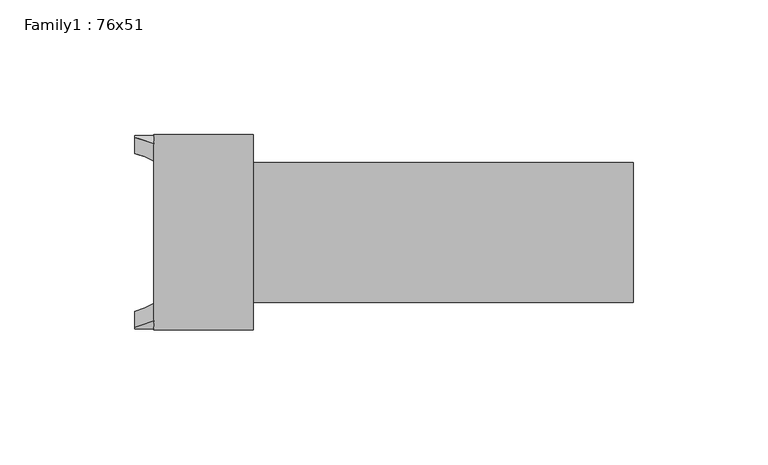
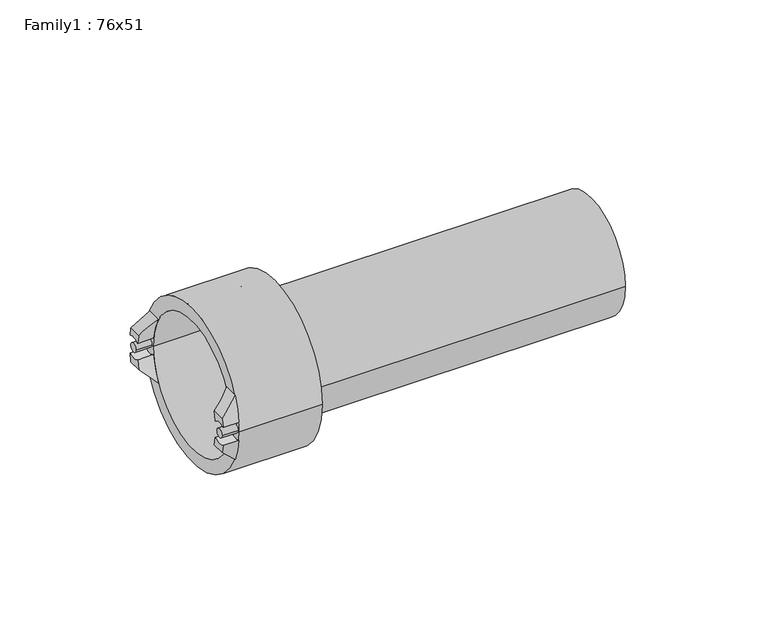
"""IFC4 building model written with IfcOpenShell, lengths in millimetres: proxy geometry, Family1 : 76x51."""

from ifc_helpers import new_model, si_unit, point, frame, frame_2d, origin, place, context, project, spatial, polyline, circle_curve, ellipse_curve, trimmed, segment, composite_curve, outline, extrude, source, transform, mapped, element, save
from ifc_brep_helpers import plane_surface, cylinder_surface, revolved_surface, advanced_brep


def family1_76x51_2759c619(model_context):
    return source(origin(), model_context, "Body", "SolidModel", [
        advanced_brep(
        [(-185.0, -30.1005263, 3.8834026), (-185.0, -35.9005263, 4.2396592), (-185.0, -35.2672497, 7.94), (-185.0, -29.2929838, 7.94), (-177.9, -32.8910702, 15.0), (-177.9, -35.9005263, 4.2396592), (-177.9, -30.1005263, 3.8834026), (-177.9, -26.3841335, 15.0)],
        [
            (0, 1, circle_curve(frame((-185.0, -33.25, 0.0), z_axis=(1.0, 0.0, 0.0), x_axis=(0.0, 1.0, 0.0)), 5.0)),
            (1, 2, circle_curve(frame((-185.0, 0.0, 0.0), z_axis=(-1.0, 0.0, 0.0), x_axis=(0.0, 1.0, 0.0)), 36.15)),
            (2, 3),
            (3, 0, circle_curve(frame((-185.0, 0.0, 0.0), z_axis=(1.0, 0.0, 0.0), x_axis=(0.0, 1.0, 0.0)), 30.35)),
            (4, 5, circle_curve(frame((-177.9, 0.0, 0.0), z_axis=(1.0, 0.0, 0.0), x_axis=(0.0, 1.0, 0.0)), 36.15)),
            (5, 6, circle_curve(frame((-177.9, -33.25, 0.0), z_axis=(-1.0, 0.0, 0.0), x_axis=(0.0, 1.0, 0.0)), 5.0)),
            (6, 7, circle_curve(frame((-177.9, 0.0, 0.0), z_axis=(-1.0, 0.0, 0.0), x_axis=(0.0, 1.0, 0.0)), 30.35)),
            (7, 4),
            (6, 0),
            (3, 7, ellipse_curve(frame((-192.9849858, 0.0, 0.0), z_axis=(-0.705106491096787, 0.0, 0.7091014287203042), x_axis=(0.7091014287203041, 0.0, 0.705106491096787)), 43.0431437, 30.35)),
            (4, 2, ellipse_curve(frame((-192.9849858, 0.0, 0.0), z_axis=(0.705106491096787, 0.0, -0.7091014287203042), x_axis=(-0.7091014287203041, 0.0, -0.705106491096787)), 51.2688515, 36.15)),
            (1, 5),
        ],
        [
            plane_surface(frame((-185.0, -32.8910702, 15.0), z_axis=(-1.0, 0.0, 0.0), x_axis=(0.0, 1.0, 0.0))),
            plane_surface(frame((-177.9, -32.8910702, 15.0), z_axis=(1.0, 0.0, 0.0), x_axis=(0.0, -1.0, 0.0))),
            revolved_surface(polyline([(-162.46303110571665, 30.35, 0.0), (-223.50694049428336, 30.35, 0.0)]), (-177.9, 0.0, 0.0), (1.0, 0.0, 0.0)),
            cylinder_surface(frame((-177.9, 0.0, 0.0), z_axis=(-1.0, 0.0, 0.0), x_axis=(0.0, 1.0, 0.0)), 36.15),
            revolved_surface(polyline([(-185.0, -28.25, 0.0), (-177.9, -28.25, 0.0)]), (-177.9, -33.25, 0.0), (-1.0, 0.0, 0.0)),
            plane_surface(frame((-177.9, 36.15, 15.0), z_axis=(-0.705106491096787, 0.0, 0.7091014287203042), x_axis=(0.0, -1.0, 0.0))),
        ],
        [
            (0, [[1, 2, 3, 4]]),
            (1, [[5, 6, 7, 8]]),
            (2, [[-7, 9, -4, 10]]),
            (3, [[-5, 11, -2, 12]]),
            (4, [[-1, -9, -6, -12]]),
            (5, [[-3, -11, -8, -10]]),
        ],
    ),
        advanced_brep(
        [(-185.0, -35.9005263, -4.2396592), (-185.0, -30.1005263, -3.8834026), (-185.0, -29.2929838, -7.94), (-185.0, -35.2672497, -7.94), (-177.9, -35.9005263, -4.2396592), (-177.9, -32.8910702, -15.0), (-177.9, -26.3841335, -15.0), (-177.9, -30.1005263, -3.8834026)],
        [
            (0, 1, circle_curve(frame((-185.0, -33.25, 0.0), z_axis=(1.0, 0.0, 0.0), x_axis=(0.0, 1.0, 0.0)), 5.0)),
            (1, 2, circle_curve(frame((-185.0, 0.0, 0.0), z_axis=(1.0, 0.0, 0.0), x_axis=(0.0, 1.0, 0.0)), 30.35)),
            (2, 3),
            (3, 0, circle_curve(frame((-185.0, 0.0, 0.0), z_axis=(-1.0, 0.0, 0.0), x_axis=(0.0, 1.0, 0.0)), 36.15)),
            (4, 5, circle_curve(frame((-177.9, 0.0, 0.0), z_axis=(1.0, 0.0, 0.0), x_axis=(0.0, 1.0, 0.0)), 36.15)),
            (5, 6),
            (6, 7, circle_curve(frame((-177.9, 0.0, 0.0), z_axis=(-1.0, 0.0, 0.0), x_axis=(0.0, 1.0, 0.0)), 30.35)),
            (7, 4, circle_curve(frame((-177.9, -33.25, 0.0), z_axis=(-1.0, 0.0, 0.0), x_axis=(0.0, 1.0, 0.0)), 5.0)),
            (6, 2, ellipse_curve(frame((-192.9849858, 0.0, 0.0), z_axis=(-0.7051064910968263, 0.0, -0.7091014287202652), x_axis=(0.7091014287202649, 0.0, -0.7051064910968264)), 43.0431437, 30.35)),
            (1, 7),
            (4, 0),
            (3, 5, ellipse_curve(frame((-192.9849858, 0.0, 0.0), z_axis=(0.7051064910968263, 0.0, 0.7091014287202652), x_axis=(-0.7091014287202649, 0.0, 0.7051064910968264)), 51.2688515, 36.15)),
        ],
        [
            plane_surface(frame((-185.0, -32.8910702, 15.0), z_axis=(-1.0, 0.0, 0.0), x_axis=(0.0, 1.0, 0.0))),
            plane_surface(frame((-177.9, -32.8910702, 15.0), z_axis=(1.0, 0.0, 0.0), x_axis=(0.0, -1.0, 0.0))),
            revolved_surface(polyline([(-162.46303110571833, 30.35, 0.0), (-223.50694049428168, 30.35, 0.0)]), (-177.9, 0.0, 0.0), (1.0, 0.0, 0.0)),
            cylinder_surface(frame((-177.9, 0.0, 0.0), z_axis=(-1.0, 0.0, 0.0), x_axis=(0.0, 1.0, 0.0)), 36.15),
            revolved_surface(polyline([(-185.0, -28.25, 0.0), (-177.9, -28.25, 0.0)]), (-177.9, -33.25, 0.0), (-1.0, 0.0, 0.0)),
            plane_surface(frame((-185.0, 36.15, -7.94), z_axis=(-0.7051064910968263, 0.0, -0.7091014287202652), x_axis=(0.0, -1.0, 0.0))),
        ],
        [
            (0, [[1, 2, 3, 4]]),
            (1, [[5, 6, 7, 8]]),
            (2, [[-7, 9, -2, 10]]),
            (3, [[-5, 11, -4, 12]]),
            (4, [[-1, -11, -8, -10]]),
            (5, [[-3, -9, -6, -12]]),
        ],
    ),
        advanced_brep(
        [(-185.0, 35.9005263, 4.2396592), (-185.0, 30.1005263, 3.8834026), (-185.0, 29.2929838, 7.94), (-185.0, 35.2672497, 7.94), (-177.9, 35.9005263, 4.2396592), (-177.9, 32.8910702, 15.0), (-177.9, 26.3841335, 15.0), (-177.9, 30.1005263, 3.8834026)],
        [
            (0, 1, circle_curve(frame((-185.0, 33.25, 0.0), z_axis=(1.0, 0.0, 0.0), x_axis=(0.0, 1.0, 0.0)), 5.0)),
            (1, 2, circle_curve(frame((-185.0, 0.0, 0.0), z_axis=(1.0, 0.0, 0.0), x_axis=(0.0, 1.0, 0.0)), 30.35)),
            (2, 3),
            (3, 0, circle_curve(frame((-185.0, 0.0, 0.0), z_axis=(-1.0, 0.0, 0.0), x_axis=(0.0, 1.0, 0.0)), 36.15)),
            (4, 5, circle_curve(frame((-177.9, 0.0, 0.0), z_axis=(1.0, 0.0, 0.0), x_axis=(0.0, 1.0, 0.0)), 36.15)),
            (5, 6),
            (6, 7, circle_curve(frame((-177.9, 0.0, 0.0), z_axis=(-1.0, 0.0, 0.0), x_axis=(0.0, 1.0, 0.0)), 30.35)),
            (7, 4, circle_curve(frame((-177.9, 33.25, 0.0), z_axis=(-1.0, 0.0, 0.0), x_axis=(0.0, 1.0, 0.0)), 5.0)),
            (6, 2, ellipse_curve(frame((-192.9849858, 0.0, 0.0), z_axis=(-0.705106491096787, 0.0, 0.7091014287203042), x_axis=(0.7091014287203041, 0.0, 0.705106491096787)), 43.0431437, 30.35)),
            (1, 7),
            (4, 0),
            (3, 5, ellipse_curve(frame((-192.9849858, 0.0, 0.0), z_axis=(0.705106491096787, 0.0, -0.7091014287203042), x_axis=(-0.7091014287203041, 0.0, -0.705106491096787)), 51.2688515, 36.15)),
        ],
        [
            plane_surface(frame((-185.0, -32.8910702, 15.0), z_axis=(-1.0, 0.0, 0.0), x_axis=(0.0, 1.0, 0.0))),
            plane_surface(frame((-177.9, -32.8910702, 15.0), z_axis=(1.0, 0.0, 0.0), x_axis=(0.0, -1.0, 0.0))),
            revolved_surface(polyline([(-162.46303110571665, 30.35, 0.0), (-223.50694049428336, 30.35, 0.0)]), (-177.9, 0.0, 0.0), (1.0, 0.0, 0.0)),
            cylinder_surface(frame((-177.9, 0.0, 0.0), z_axis=(-1.0, 0.0, 0.0), x_axis=(0.0, 1.0, 0.0)), 36.15),
            revolved_surface(polyline([(-185.0, 38.25, 0.0), (-177.9, 38.25, 0.0)]), (-177.9, 33.25, 0.0), (-1.0, 0.0, 0.0)),
            plane_surface(frame((-177.9, 36.15, 15.0), z_axis=(-0.705106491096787, 0.0, 0.7091014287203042), x_axis=(0.0, -1.0, 0.0))),
        ],
        [
            (0, [[1, 2, 3, 4]]),
            (1, [[5, 6, 7, 8]]),
            (2, [[-7, 9, -2, 10]]),
            (3, [[-5, 11, -4, 12]]),
            (4, [[-1, -11, -8, -10]]),
            (5, [[-3, -9, -6, -12]]),
        ],
    ),
        advanced_brep(
        [(-185.0, 30.1005263, -3.8834026), (-185.0, 35.9005263, -4.2396592), (-185.0, 35.2672497, -7.94), (-185.0, 29.2929838, -7.94), (-177.9, 32.8910702, -15.0), (-177.9, 35.9005263, -4.2396592), (-177.9, 30.1005263, -3.8834026), (-177.9, 26.3841335, -15.0)],
        [
            (0, 1, circle_curve(frame((-185.0, 33.25, 0.0), z_axis=(1.0, 0.0, 0.0), x_axis=(0.0, 1.0, 0.0)), 5.0)),
            (1, 2, circle_curve(frame((-185.0, 0.0, 0.0), z_axis=(-1.0, 0.0, 0.0), x_axis=(0.0, 1.0, 0.0)), 36.15)),
            (2, 3),
            (3, 0, circle_curve(frame((-185.0, 0.0, 0.0), z_axis=(1.0, 0.0, 0.0), x_axis=(0.0, 1.0, 0.0)), 30.35)),
            (4, 5, circle_curve(frame((-177.9, 0.0, 0.0), z_axis=(1.0, 0.0, 0.0), x_axis=(0.0, 1.0, 0.0)), 36.15)),
            (5, 6, circle_curve(frame((-177.9, 33.25, 0.0), z_axis=(-1.0, 0.0, 0.0), x_axis=(0.0, 1.0, 0.0)), 5.0)),
            (6, 7, circle_curve(frame((-177.9, 0.0, 0.0), z_axis=(-1.0, 0.0, 0.0), x_axis=(0.0, 1.0, 0.0)), 30.35)),
            (7, 4),
            (6, 0),
            (3, 7, ellipse_curve(frame((-192.9849858, 0.0, 0.0), z_axis=(-0.7051064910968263, 0.0, -0.7091014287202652), x_axis=(0.7091014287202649, 0.0, -0.7051064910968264)), 43.0431437, 30.35)),
            (4, 2, ellipse_curve(frame((-192.9849858, 0.0, 0.0), z_axis=(0.7051064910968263, 0.0, 0.7091014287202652), x_axis=(-0.7091014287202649, 0.0, 0.7051064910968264)), 51.2688515, 36.15)),
            (1, 5),
        ],
        [
            plane_surface(frame((-185.0, -32.8910702, 15.0), z_axis=(-1.0, 0.0, 0.0), x_axis=(0.0, 1.0, 0.0))),
            plane_surface(frame((-177.9, -32.8910702, 15.0), z_axis=(1.0, 0.0, 0.0), x_axis=(0.0, -1.0, 0.0))),
            revolved_surface(polyline([(-162.46303110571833, 30.35, 0.0), (-223.50694049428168, 30.35, 0.0)]), (-177.9, 0.0, 0.0), (1.0, 0.0, 0.0)),
            cylinder_surface(frame((-177.9, 0.0, 0.0), z_axis=(-1.0, 0.0, 0.0), x_axis=(0.0, 1.0, 0.0)), 36.15),
            revolved_surface(polyline([(-185.0, 38.25, 0.0), (-177.9, 38.25, 0.0)]), (-177.9, 33.25, 0.0), (-1.0, 0.0, 0.0)),
            plane_surface(frame((-185.0, 36.15, -7.94), z_axis=(-0.7051064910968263, 0.0, -0.7091014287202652), x_axis=(0.0, -1.0, 0.0))),
        ],
        [
            (0, [[1, 2, 3, 4]]),
            (1, [[5, 6, 7, 8]]),
            (2, [[-7, 9, -4, 10]]),
            (3, [[-5, 11, -2, 12]]),
            (4, [[-1, -9, -6, -12]]),
            (5, [[-3, -11, -8, -10]]),
        ],
    ),
        extrude(outline(composite_curve([segment(trimmed(circle_curve(frame_2d((-33.25, 0.0)), 2.0), [point((-35.25, 0.0))], [point((-31.25, 0.0))], False, "CARTESIAN"), True, "CONTINUOUS"), segment(trimmed(circle_curve(frame_2d((-33.25, 0.0)), 2.0), [point((-31.25, 0.0))], [point((-35.25, 0.0))], False, "CARTESIAN"), True, "CONTINUOUS")], self_intersect=False)), frame((-185.0, 0.0, 0.0), z_axis=(1.0, 0.0, 0.0), x_axis=(0.0, 1.0, 0.0)), (0.0, 0.0, 1.0), 7.1),
        extrude(outline(composite_curve([segment(trimmed(circle_curve(frame_2d((33.25, 0.0)), 2.0), [point((31.25, 0.0))], [point((35.25, 0.0))], False, "CARTESIAN"), True, "CONTINUOUS"), segment(trimmed(circle_curve(frame_2d((33.25, 0.0)), 2.0), [point((35.25, 0.0))], [point((31.25, 0.0))], False, "CARTESIAN"), True, "CONTINUOUS")], self_intersect=False)), frame((-185.0, 0.0, 0.0), z_axis=(1.0, 0.0, 0.0), x_axis=(0.0, 1.0, 0.0)), (0.0, 0.0, 1.0), 7.1),
        advanced_brep(
        [(-146.1, -26.0, 0.0), (-146.1, 26.0, 0.0), (-146.1, 30.2, 0.0), (-146.1, -30.2, 0.0), (-141.0, -26.0, 0.0), (-141.0, 26.0, 0.0), (-141.0, -36.3, 0.0), (-141.0, 36.3, 0.0), (-177.9, -36.3, 0.0), (-177.9, 36.3, 0.0), (-177.9, -30.2, 0.0), (-177.9, 30.2, 0.0)],
        [
            (0, 1, circle_curve(frame((-146.1, 0.0, 0.0), z_axis=(1.0, 0.0, 0.0), x_axis=(0.0, 1.0, 0.0)), 26.0)),
            (1, 2),
            (2, 3, circle_curve(frame((-146.1, 0.0, 0.0), z_axis=(-1.0, 0.0, 0.0), x_axis=(0.0, 1.0, 0.0)), 30.2)),
            (3, 0),
            (1, 0, circle_curve(frame((-146.1, 0.0, 0.0), z_axis=(1.0, 0.0, 0.0), x_axis=(0.0, 1.0, 0.0)), 26.0)),
            (3, 2, circle_curve(frame((-146.1, 0.0, 0.0), z_axis=(-1.0, 0.0, 0.0), x_axis=(0.0, 1.0, 0.0)), 30.2)),
            (4, 5, circle_curve(frame((-141.0, 0.0, 0.0), z_axis=(1.0, 0.0, 0.0), x_axis=(0.0, 1.0, 0.0)), 26.0)),
            (5, 1),
            (0, 4),
            (5, 4, circle_curve(frame((-141.0, 0.0, 0.0), z_axis=(1.0, 0.0, 0.0), x_axis=(0.0, 1.0, 0.0)), 26.0)),
            (6, 7, circle_curve(frame((-141.0, 0.0, 0.0), z_axis=(1.0, 0.0, 0.0), x_axis=(0.0, 1.0, 0.0)), 36.3)),
            (7, 5),
            (4, 6),
            (7, 6, circle_curve(frame((-141.0, 0.0, 0.0), z_axis=(1.0, 0.0, 0.0), x_axis=(0.0, 1.0, 0.0)), 36.3)),
            (8, 9, circle_curve(frame((-177.9, 0.0, 0.0), z_axis=(1.0, 0.0, 0.0), x_axis=(0.0, 1.0, 0.0)), 36.3)),
            (9, 7),
            (6, 8),
            (9, 8, circle_curve(frame((-177.9, 0.0, 0.0), z_axis=(1.0, 0.0, 0.0), x_axis=(0.0, 1.0, 0.0)), 36.3)),
            (10, 11, circle_curve(frame((-177.9, 0.0, 0.0), z_axis=(1.0, 0.0, 0.0), x_axis=(0.0, 1.0, 0.0)), 30.2)),
            (11, 9),
            (8, 10),
            (11, 10, circle_curve(frame((-177.9, 0.0, 0.0), z_axis=(1.0, 0.0, 0.0), x_axis=(0.0, 1.0, 0.0)), 30.2)),
            (2, 11),
            (10, 3),
        ],
        [
            plane_surface(frame((-146.1, 0.0, 0.0), z_axis=(-1.0, 0.0, 0.0), x_axis=(0.0, 1.0, 0.0))),
            revolved_surface(polyline([(-146.0999999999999, 26.0, 0.0), (-141.0, 26.0, 0.0)]), (-2691.8826241, 0.0, 0.0), (-1.0, 0.0, 0.0)),
            plane_surface(frame((-141.0, 0.0, 0.0), z_axis=(1.0, 0.0, 0.0), x_axis=(0.0, 1.0, 0.0))),
            cylinder_surface(frame((-2691.8826241, 0.0, 0.0), z_axis=(-1.0, 0.0, 0.0), x_axis=(0.0, 1.0, 0.0)), 36.3),
            plane_surface(frame((-177.9, 0.0, 0.0), z_axis=(-1.0, 0.0, 0.0), x_axis=(0.0, 1.0, 0.0))),
            revolved_surface(polyline([(-177.9000000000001, 30.2, 0.0), (-146.0999999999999, 30.2, 0.0)]), (-2691.8826241, 0.0, 0.0), (-1.0, 0.0, 0.0)),
        ],
        [
            (0, [[1, 2, 3, 4]]),
            (0, [[5, -4, 6, -2]]),
            (1, [[7, 8, -1, 9]]),
            (1, [[10, -9, -5, -8]]),
            (2, [[11, 12, -7, 13]]),
            (2, [[14, -13, -10, -12]]),
            (3, [[15, 16, -11, 17]]),
            (3, [[18, -17, -14, -16]]),
            (4, [[19, 20, -15, 21]]),
            (4, [[22, -21, -18, -20]]),
            (5, [[-3, 23, -19, 24]]),
            (5, [[-6, -24, -22, -23]]),
        ],
    ),
        advanced_brep(
        [(0.0, -26.0, 0.0), (0.0, 26.0, 0.0), (0.0, 0.0, 0.0), (-146.1, -26.0, 0.0), (-146.1, 26.0, 0.0), (-146.1, 0.0, 0.0)],
        [
            (0, 1, circle_curve(frame((0.0, 0.0, 0.0), z_axis=(1.0, 0.0, 0.0), x_axis=(0.0, 1.0, 0.0)), 26.0)),
            (1, 2),
            (2, 0),
            (1, 0, circle_curve(frame((0.0, 0.0, 0.0), z_axis=(1.0, 0.0, 0.0), x_axis=(0.0, 1.0, 0.0)), 26.0)),
            (3, 4, circle_curve(frame((-146.1, 0.0, 0.0), z_axis=(1.0, 0.0, 0.0), x_axis=(0.0, 1.0, 0.0)), 26.0)),
            (4, 1),
            (0, 3),
            (4, 3, circle_curve(frame((-146.1, 0.0, 0.0), z_axis=(1.0, 0.0, 0.0), x_axis=(0.0, 1.0, 0.0)), 26.0)),
            (5, 4),
            (3, 5),
        ],
        [
            plane_surface(frame((0.0, 0.0, 0.0), z_axis=(1.0, 0.0, 0.0), x_axis=(0.0, 1.0, 0.0))),
            cylinder_surface(frame((25.0, 0.0, 0.0), z_axis=(-1.0, 0.0, 0.0), x_axis=(0.0, 1.0, 0.0)), 26.0),
            plane_surface(frame((-146.1, 0.0, 0.0), z_axis=(-1.0, 0.0, 0.0), x_axis=(0.0, 1.0, 0.0))),
        ],
        [
            (0, [[1, 2, 3]]),
            (0, [[4, -3, -2]]),
            (1, [[5, 6, -1, 7]]),
            (1, [[8, -7, -4, -6]]),
            (2, [[9, -5, 10]]),
            (2, [[-10, -8, -9]]),
        ],
    ),
    ])


if __name__ == "__main__":
    model = new_model("IFC4")
    model_context = context("Model", 3, world=origin())
    ifc_project = project(units=[si_unit("LENGTHUNIT", "METRE", prefix="MILLI")], contexts=[model_context])
    site = spatial("IfcSite", under=ifc_project)
    building = spatial("IfcBuilding", under=site)
    placement = place(None, origin())
    family1_76x51_shape = family1_76x51_2759c619(model_context)
    element("IfcBuildingElementProxy", 1, Name="Family1 : 76x51", ObjectType="Family1 : 76x51", at=placement, inside=building, context=model_context, shape_type="MappedRepresentation", body=[
        mapped(family1_76x51_shape, transform((0.0, 0.0, 0.0), x_axis=(1.0, 0.0, 0.0), y_axis=(0.0, 1.0, 0.0), z_axis=(0.0, 0.0, 1.0))),
    ])
    save(model, "model.ifc")
